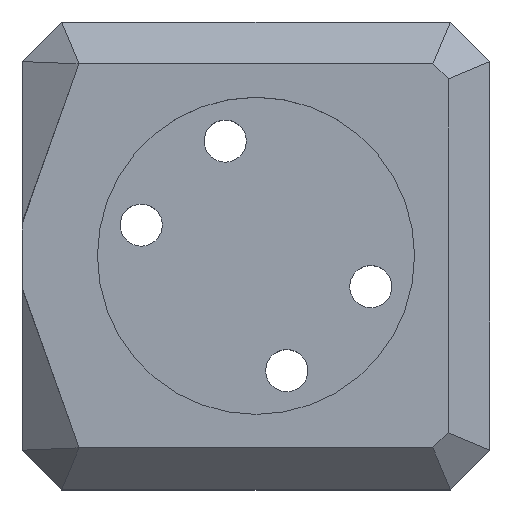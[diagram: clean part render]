
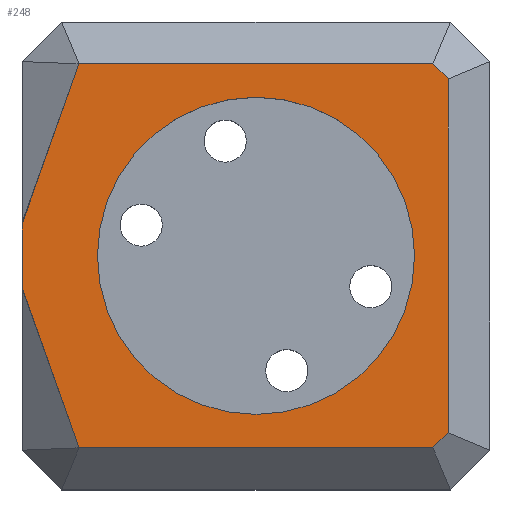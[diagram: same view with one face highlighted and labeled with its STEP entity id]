
A CAD part, top view. The second image highlights one B-rep face of the part: STEP entity #248.
In plain terms, the highlighted planar face has unit normal (0, 0, 1).
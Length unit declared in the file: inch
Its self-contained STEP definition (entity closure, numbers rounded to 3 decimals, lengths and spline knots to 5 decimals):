
#48 = LINE ( 'NONE', #559, #1162 ) ;
#84 = VERTEX_POINT ( 'NONE', #614 ) ;
#87 = EDGE_CURVE ( 'NONE', #1255, #369, #48, .T. ) ;
#95 = VERTEX_POINT ( 'NONE', #536 ) ;
#98 = LINE ( 'NONE', #1161, #865 ) ;
#102 = DIRECTION ( 'NONE',  ( -0.337, 0.942, 0. ) ) ;
#145 = DIRECTION ( 'NONE',  ( -1., 0., 0. ) ) ;
#160 = CARTESIAN_POINT ( 'NONE',  ( -1.47638, 1.21213, 0.98425 ) ) ;
#170 = ORIENTED_EDGE ( 'NONE', *, *, #407, .T. ) ;
#187 = DIRECTION ( 'NONE',  ( 0.707, 0.707, 0. ) ) ;
#248 = ADVANCED_FACE ( 'NONE', ( #385, #287 ), #859, .F. ) ;
#268 = VECTOR ( 'NONE', #354, 39.37008 ) ;
#270 = CARTESIAN_POINT ( 'NONE',  ( -1.47638, -1.22638, 0.98425 ) ) ;
#273 = VERTEX_POINT ( 'NONE', #852 ) ;
#277 = EDGE_CURVE ( 'NONE', #442, #1032, #1329, .T. ) ;
#287 = FACE_OUTER_BOUND ( 'NONE', #1078, .T. ) ;
#354 = DIRECTION ( 'NONE',  ( -0.337, -0.942, 0. ) ) ;
#357 = CARTESIAN_POINT ( 'NONE',  ( 0., 0., 0.98425 ) ) ;
#363 = LINE ( 'NONE', #570, #268 ) ;
#369 = VERTEX_POINT ( 'NONE', #755 ) ;
#385 = FACE_BOUND ( 'NONE', #1276, .T. ) ;
#404 = LINE ( 'NONE', #963, #636 ) ;
#407 = EDGE_CURVE ( 'NONE', #1255, #273, #404, .T. ) ;
#420 = CARTESIAN_POINT ( 'NONE',  ( 1.11692, 1.21213, 0.98425 ) ) ;
#425 = ORIENTED_EDGE ( 'NONE', *, *, #87, .F. ) ;
#428 = CARTESIAN_POINT ( 'NONE',  ( -1.11692, 1.21213, 0.98425 ) ) ;
#439 = CARTESIAN_POINT ( 'NONE',  ( 2.6409, -0.31185, 0.98425 ) ) ;
#442 = VERTEX_POINT ( 'NONE', #428 ) ;
#445 = DIRECTION ( 'NONE',  ( 0., 0., 1. ) ) ;
#449 = DIRECTION ( 'NONE',  ( -0.707, 0.707, 0. ) ) ;
#472 = AXIS2_PLACEMENT_3D ( 'NONE', #357, #445, #1380 ) ;
#514 = EDGE_CURVE ( 'NONE', #273, #1476, #540, .T. ) ;
#536 = CARTESIAN_POINT ( 'NONE',  ( 1.00075, 0., 0.98425 ) ) ;
#538 = LINE ( 'NONE', #439, #975 ) ;
#540 = LINE ( 'NONE', #770, #783 ) ;
#559 = CARTESIAN_POINT ( 'NONE',  ( -1.37465, -0.49196, 0.98425 ) ) ;
#570 = CARTESIAN_POINT ( 'NONE',  ( -1.37465, 0.49196, 0.98425 ) ) ;
#592 = LINE ( 'NONE', #270, #1491 ) ;
#607 = DIRECTION ( 'NONE',  ( 0., -1., 0. ) ) ;
#614 = CARTESIAN_POINT ( 'NONE',  ( -1.47638, 0.20772, 0.98425 ) ) ;
#636 = VECTOR ( 'NONE', #847, 39.37008 ) ;
#663 = EDGE_CURVE ( 'NONE', #753, #1032, #538, .T. ) ;
#736 = EDGE_CURVE ( 'NONE', #442, #84, #363, .T. ) ;
#753 = VERTEX_POINT ( 'NONE', #1399 ) ;
#755 = CARTESIAN_POINT ( 'NONE',  ( -1.47638, -0.20772, 0.98425 ) ) ;
#759 = ORIENTED_EDGE ( 'NONE', *, *, #663, .T. ) ;
#770 = CARTESIAN_POINT ( 'NONE',  ( -0.31185, -2.6409, 0.98425 ) ) ;
#779 = ORIENTED_EDGE ( 'NONE', *, *, #736, .T. ) ;
#783 = VECTOR ( 'NONE', #187, 39.37008 ) ;
#812 = DIRECTION ( 'NONE',  ( 0., 1., 0. ) ) ;
#819 = CARTESIAN_POINT ( 'NONE',  ( -1.11692, -1.21213, 0.98425 ) ) ;
#847 = DIRECTION ( 'NONE',  ( 1., 0., 0. ) ) ;
#852 = CARTESIAN_POINT ( 'NONE',  ( 1.11692, -1.21213, 0.98425 ) ) ;
#859 = PLANE ( 'NONE',  #922 ) ;
#865 = VECTOR ( 'NONE', #812, 39.37008 ) ;
#922 = AXIS2_PLACEMENT_3D ( 'NONE', #1436, #1218, #145 ) ;
#923 = ORIENTED_EDGE ( 'NONE', *, *, #514, .T. ) ;
#938 = CARTESIAN_POINT ( 'NONE',  ( 1.21213, -1.11692, 0.98425 ) ) ;
#949 = ORIENTED_EDGE ( 'NONE', *, *, #1449, .T. ) ;
#950 = DIRECTION ( 'NONE',  ( 1., 0., 0. ) ) ;
#963 = CARTESIAN_POINT ( 'NONE',  ( -1.47638, -1.21213, 0.98425 ) ) ;
#975 = VECTOR ( 'NONE', #449, 39.37008 ) ;
#1032 = VERTEX_POINT ( 'NONE', #420 ) ;
#1061 = ORIENTED_EDGE ( 'NONE', *, *, #1127, .T. ) ;
#1078 = EDGE_LOOP ( 'NONE', ( #425, #170, #923, #1061, #759, #1150, #779, #949 ) ) ;
#1119 = VECTOR ( 'NONE', #950, 39.37008 ) ;
#1127 = EDGE_CURVE ( 'NONE', #1476, #753, #98, .T. ) ;
#1150 = ORIENTED_EDGE ( 'NONE', *, *, #277, .F. ) ;
#1161 = CARTESIAN_POINT ( 'NONE',  ( 1.21213, -1.47638, 0.98425 ) ) ;
#1162 = VECTOR ( 'NONE', #102, 39.37008 ) ;
#1174 = ORIENTED_EDGE ( 'NONE', *, *, #1389, .F. ) ;
#1218 = DIRECTION ( 'NONE',  ( 0., 0., -1. ) ) ;
#1255 = VERTEX_POINT ( 'NONE', #819 ) ;
#1276 = EDGE_LOOP ( 'NONE', ( #1174 ) ) ;
#1329 = LINE ( 'NONE', #160, #1119 ) ;
#1355 = CIRCLE ( 'NONE', #472, 1.00075 ) ;
#1380 = DIRECTION ( 'NONE',  ( 1., 0., 0. ) ) ;
#1389 = EDGE_CURVE ( 'NONE', #95, #95, #1355, .T. ) ;
#1399 = CARTESIAN_POINT ( 'NONE',  ( 1.21213, 1.11692, 0.98425 ) ) ;
#1436 = CARTESIAN_POINT ( 'NONE',  ( 0., 0., 0.98425 ) ) ;
#1449 = EDGE_CURVE ( 'NONE', #84, #369, #592, .T. ) ;
#1476 = VERTEX_POINT ( 'NONE', #938 ) ;
#1491 = VECTOR ( 'NONE', #607, 39.37008 ) ;
